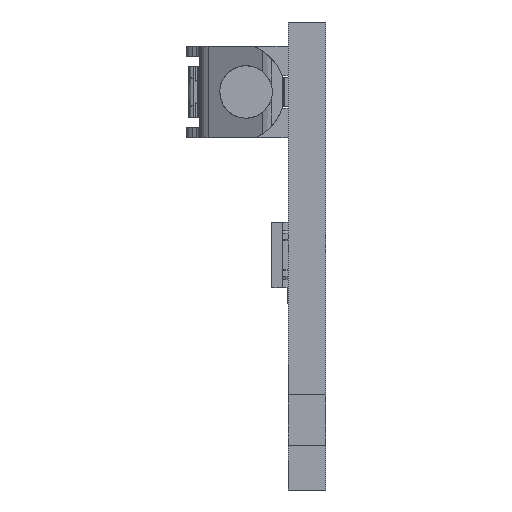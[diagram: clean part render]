
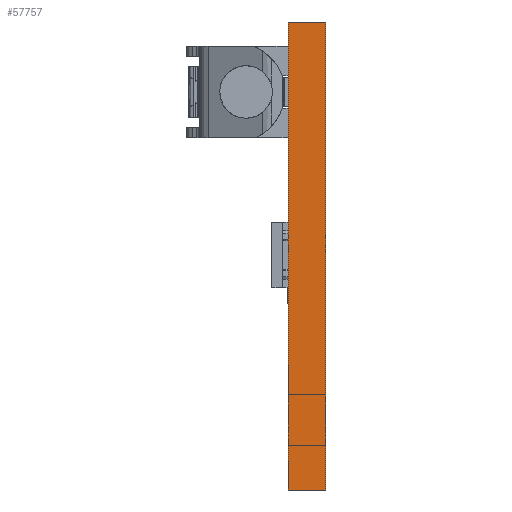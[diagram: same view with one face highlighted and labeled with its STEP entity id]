
A CAD part, left-side view. The second image highlights one B-rep face of the part: STEP entity #57757.
In plain terms, the highlighted planar face has unit normal (-1, 0, 0).
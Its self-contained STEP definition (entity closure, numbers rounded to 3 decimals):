
#6855=DIRECTION('',(0.,0.,1.));
#6856=VECTOR('',#6855,20.);
#6857=CARTESIAN_POINT('',(-279.5,0.,-10.));
#6858=LINE('',#6857,#6856);
#21463=DIRECTION('',(0.,0.,1.));
#21464=VECTOR('',#21463,20.);
#21465=CARTESIAN_POINT('',(-279.5,-1.6,-10.));
#21466=LINE('',#21465,#21464);
#21667=DIRECTION('',(0.,-1.,0.));
#21668=VECTOR('',#21667,1.6);
#21669=CARTESIAN_POINT('',(-279.5,0.,10.));
#21670=LINE('',#21669,#21668);
#21779=DIRECTION('',(0.,-1.,0.));
#21780=VECTOR('',#21779,1.6);
#21781=CARTESIAN_POINT('',(-279.5,0.,-10.));
#21782=LINE('',#21781,#21780);
#21973=CARTESIAN_POINT('',(-279.5,0.,-10.));
#21974=CARTESIAN_POINT('',(-279.5,0.,10.));
#21975=VERTEX_POINT('',#21973);
#21976=VERTEX_POINT('',#21974);
#21981=CARTESIAN_POINT('',(-279.5,-1.6,-10.));
#21982=CARTESIAN_POINT('',(-279.5,-1.6,10.));
#21983=VERTEX_POINT('',#21981);
#21984=VERTEX_POINT('',#21982);
#57746=CARTESIAN_POINT('',(-279.5,0.,-10.));
#57747=DIRECTION('',(-1.,0.,0.));
#57748=DIRECTION('',(0.,0.,1.));
#57749=AXIS2_PLACEMENT_3D('',#57746,#57747,#57748);
#57750=PLANE('',#57749);
#57751=ORIENTED_EDGE('',*,*,#27411,.T.);
#57752=ORIENTED_EDGE('',*,*,#57378,.T.);
#57753=ORIENTED_EDGE('',*,*,#56671,.F.);
#57754=ORIENTED_EDGE('',*,*,#57570,.F.);
#57755=EDGE_LOOP('',(#57751,#57752,#57753,#57754));
#57756=FACE_OUTER_BOUND('',#57755,.F.);
#27411=EDGE_CURVE('',#21975,#21976,#6858,.T.);
#56671=EDGE_CURVE('',#21983,#21984,#21466,.T.);
#57378=EDGE_CURVE('',#21976,#21984,#21670,.T.);
#57570=EDGE_CURVE('',#21975,#21983,#21782,.T.);
#57757=ADVANCED_FACE('',(#57756),#57750,.T.);
